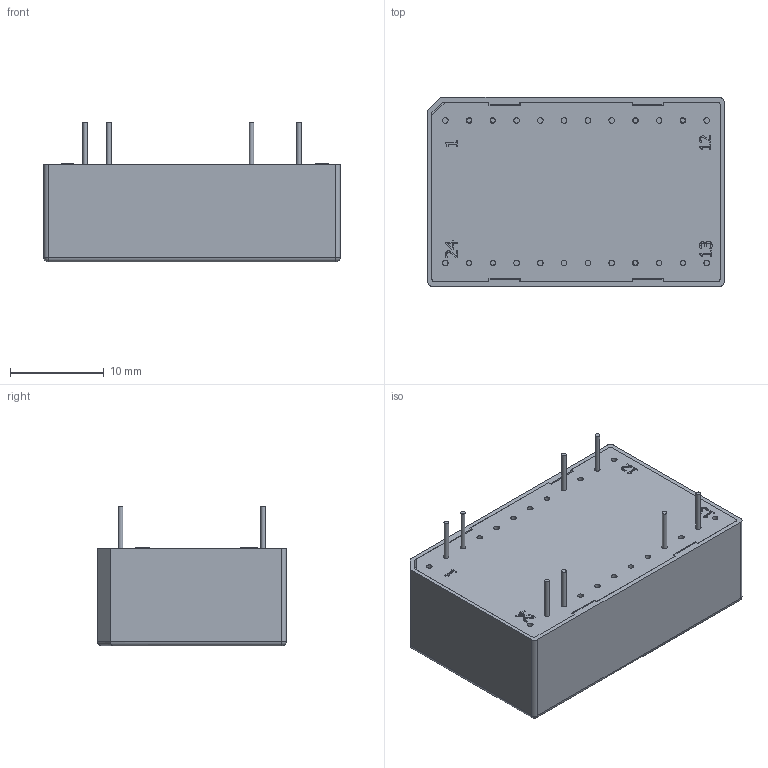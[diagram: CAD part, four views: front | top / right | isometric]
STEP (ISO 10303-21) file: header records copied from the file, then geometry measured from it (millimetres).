
FILE_DESCRIPTION(/* description */ (''),/* implementation_level */ '2;1');
FILE_NAME(/* name */ 'C:\Users\CALLIOPE\Documents\Inventor\MIW06_MIWI06\3D\X2\5C3A5BF8591689C0\X0\\型錄用-STEP檔\MIW03+MIWI03.stp',/* time_stamp */ '2015-03-13T08:41:05+08:00',/* author */ ('CALLIOPE'),/* organization */ (''),/* preprocessor_version */ 'ST-DEVELOPER v15.6',/* originating_system */ 'Autodesk Inventor 2015',/* authorisation */ '');
FILE_SCHEMA (('AUTOMOTIVE_DESIGN { 1 0 10303 214 3 1 1 }'));
Length unit declared in the file: millimetre
Products named in the file (3): MIWI03 CASE; BASE; MIW03+MIWI03
Assembly tree (2 placements, depth 2):
  MIW03+MIWI03
    MIWI03 CASE
    BASE
Bounding box: 31.68 x 20.2 x 14.95 mm (x, y, z)
Volume: 6605.1 mm3; surface area: 3779.9 mm2
Topology: 2 solids, 2 shells, 249 faces, 676 edges, 445 vertices
Faces by surface type: plane 132, cylinder 46, bspline 44, cone 24, sphere 3
Full cylindrical faces by diameter (mm): 0.5 x8, 0.6 x24
Entity records: 7706 total; most frequent: CARTESIAN_POINT 1864, ORIENTED_EDGE 1186, DIRECTION 1039, EDGE_CURVE 593, VERTEX_POINT 421, LINE 391, VECTOR 391, EDGE_LOOP 370
